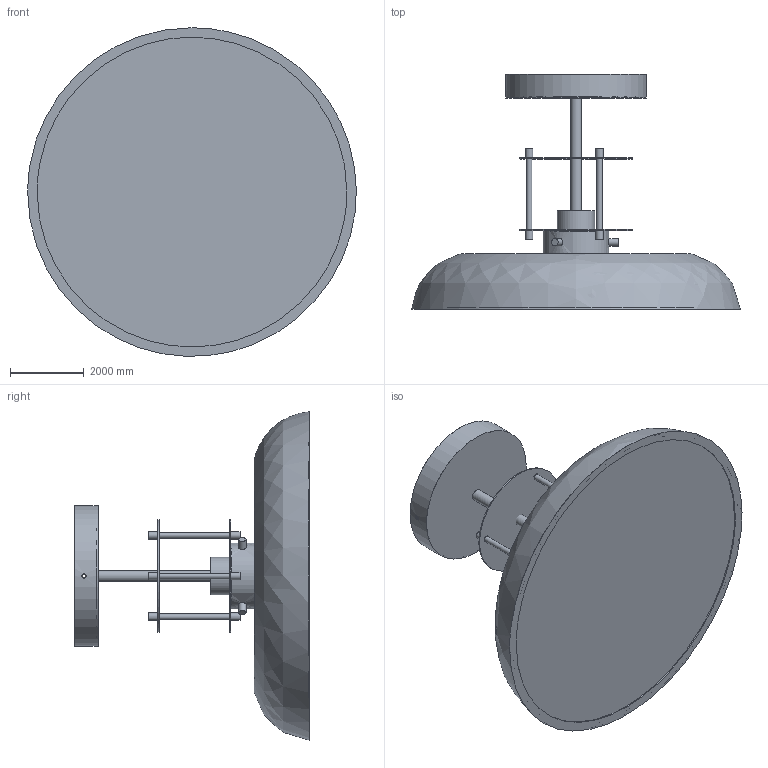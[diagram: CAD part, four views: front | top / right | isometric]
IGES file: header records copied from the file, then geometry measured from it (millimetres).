
Global section: file name: Gavin Ceiling Light; native system: AutoCAD 2022 - 简体中文 (Simplified Chinese),62HAuto; preprocessor: desk Translation Framework DWG producer (atf_dwg_producer); organization: unknown; date: 20260709.173854; units: inch
Bounding box: 8889.79 x 6350 x 8886.62 mm (x, y, z)
Volume: 7121658739.7 mm3; surface area: 394778255.5 mm2
Topology: 26 solids, 26 shells, 104 faces, 174 edges, 124 vertices
Faces by surface type: bspline 104
